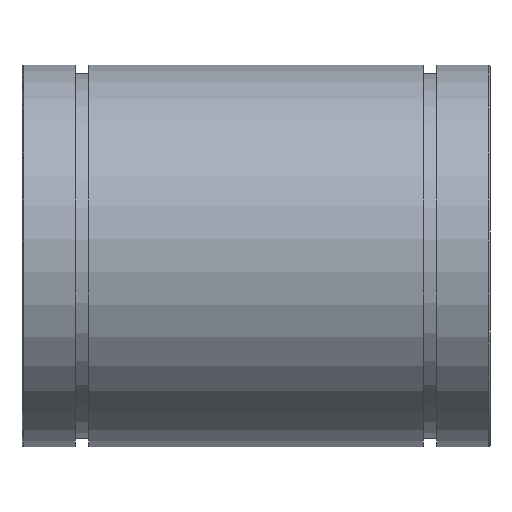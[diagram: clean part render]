
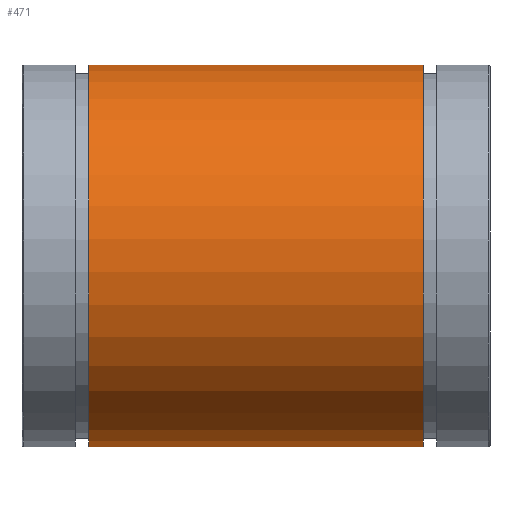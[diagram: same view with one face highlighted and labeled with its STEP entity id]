
A CAD part, top view. The second image highlights one B-rep face of the part: STEP entity #471.
In plain terms, the highlighted cylindrical face has radius 45 mm (diameter 90 mm), a partial arc.
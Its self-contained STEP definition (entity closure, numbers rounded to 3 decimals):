
#90=CARTESIAN_POINT('',(15.65,18.839,-40.867));
#91=VERTEX_POINT('',#90);
#98=CARTESIAN_POINT('',(94.35,18.839,-40.867));
#99=VERTEX_POINT('',#98);
#100=CARTESIAN_POINT('',(94.35,18.839,-40.867));
#101=DIRECTION('',(-1.0,0.0,0.0));
#102=VECTOR('',#101,78.7);
#103=LINE('',#100,#102);
#104=EDGE_CURVE('',#99,#91,#103,.T.);
#327=CARTESIAN_POINT('',(94.35,-18.839,-40.867));
#328=VERTEX_POINT('',#327);
#335=CARTESIAN_POINT('',(15.65,-18.839,-40.867));
#336=VERTEX_POINT('',#335);
#337=CARTESIAN_POINT('',(15.65,-18.839,-40.867));
#338=DIRECTION('',(1.0,0.0,0.0));
#339=VECTOR('',#338,78.7);
#340=LINE('',#337,#339);
#341=EDGE_CURVE('',#336,#328,#340,.T.);
#442=CARTESIAN_POINT('',(15.65,0.0,0.));
#443=DIRECTION('',(-1.0,0.0,0.0));
#444=DIRECTION('',(0.0,0.0,1.0));
#445=AXIS2_PLACEMENT_3D('',#442,#443,#444);
#446=CIRCLE('',#445,45.);
#447=EDGE_CURVE('',#336,#91,#446,.T.);
#454=CARTESIAN_POINT('',(55.,0.0,0.));
#455=DIRECTION('',(-1.0,0.0,0.));
#456=DIRECTION('',(0.0,0.0,1.0));
#457=AXIS2_PLACEMENT_3D('',#454,#455,#456);
#458=CYLINDRICAL_SURFACE('',#457,45.);
#459=ORIENTED_EDGE('',*,*,#341,.T.);
#460=CARTESIAN_POINT('',(94.35,0.0,0.));
#461=DIRECTION('',(-1.0,0.0,0.0));
#462=DIRECTION('',(0.0,0.0,1.0));
#463=AXIS2_PLACEMENT_3D('',#460,#461,#462);
#464=CIRCLE('',#463,45.);
#465=EDGE_CURVE('',#328,#99,#464,.T.);
#466=ORIENTED_EDGE('',*,*,#465,.T.);
#467=ORIENTED_EDGE('',*,*,#104,.T.);
#468=ORIENTED_EDGE('',*,*,#447,.F.);
#469=EDGE_LOOP('',(#459,#466,#467,#468));
#470=FACE_OUTER_BOUND('',#469,.T.);
#471=ADVANCED_FACE('',(#470),#458,.T.);
